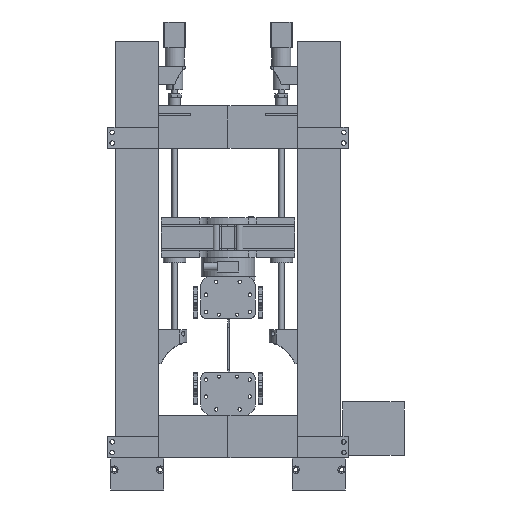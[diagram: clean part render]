
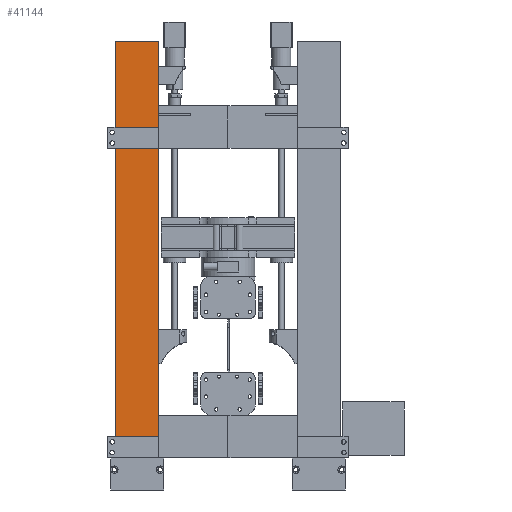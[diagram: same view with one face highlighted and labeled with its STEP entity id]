
A CAD part, front view. The second image highlights one B-rep face of the part: STEP entity #41144.
In plain terms, the highlighted planar face has unit normal (0, -1, 0).
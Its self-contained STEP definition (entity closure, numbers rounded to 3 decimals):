
#41108 = EDGE_CURVE('',#41109,#41111,#41113,.T.);
#41109 = VERTEX_POINT('',#41110);
#41110 = CARTESIAN_POINT('',(-210.,-20.,60.));
#41111 = VERTEX_POINT('',#41112);
#41112 = CARTESIAN_POINT('',(-210.,-20.,840.));
#41113 = LINE('',#41114,#41115);
#41114 = CARTESIAN_POINT('',(-210.,-20.,60.));
#41115 = VECTOR('',#41116,1.);
#41116 = DIRECTION('',(0.,0.,1.));
#41144 = ADVANCED_FACE('',(#41145),#41170,.F.);
#41145 = FACE_BOUND('',#41146,.F.);
#41146 = EDGE_LOOP('',(#41147,#41155,#41156,#41164));
#41147 = ORIENTED_EDGE('',*,*,#41148,.F.);
#41148 = EDGE_CURVE('',#41109,#41149,#41151,.T.);
#41149 = VERTEX_POINT('',#41150);
#41150 = CARTESIAN_POINT('',(-130.,-20.,60.));
#41151 = LINE('',#41152,#41153);
#41152 = CARTESIAN_POINT('',(-210.,-20.,60.));
#41153 = VECTOR('',#41154,1.);
#41154 = DIRECTION('',(1.,0.,-0.));
#41155 = ORIENTED_EDGE('',*,*,#41108,.T.);
#41156 = ORIENTED_EDGE('',*,*,#41157,.T.);
#41157 = EDGE_CURVE('',#41111,#41158,#41160,.T.);
#41158 = VERTEX_POINT('',#41159);
#41159 = CARTESIAN_POINT('',(-130.,-20.,840.));
#41160 = LINE('',#41161,#41162);
#41161 = CARTESIAN_POINT('',(-210.,-20.,840.));
#41162 = VECTOR('',#41163,1.);
#41163 = DIRECTION('',(1.,0.,-0.));
#41164 = ORIENTED_EDGE('',*,*,#41165,.F.);
#41165 = EDGE_CURVE('',#41149,#41158,#41166,.T.);
#41166 = LINE('',#41167,#41168);
#41167 = CARTESIAN_POINT('',(-130.,-20.,60.));
#41168 = VECTOR('',#41169,1.);
#41169 = DIRECTION('',(0.,0.,1.));
#41170 = PLANE('',#41171);
#41171 = AXIS2_PLACEMENT_3D('',#41172,#41173,#41174);
#41172 = CARTESIAN_POINT('',(-210.,-20.,60.));
#41173 = DIRECTION('',(-0.,1.,0.));
#41174 = DIRECTION('',(0.,0.,1.));
